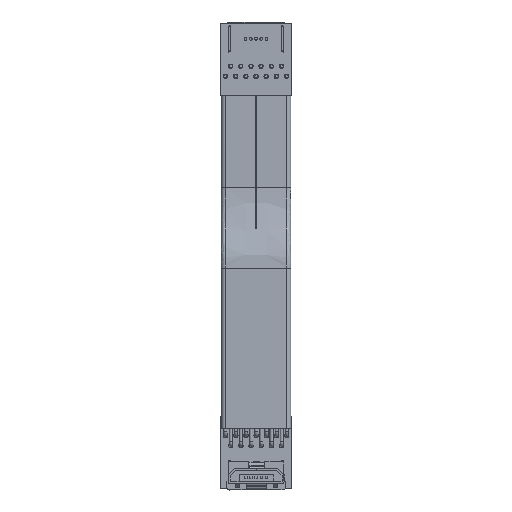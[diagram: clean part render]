
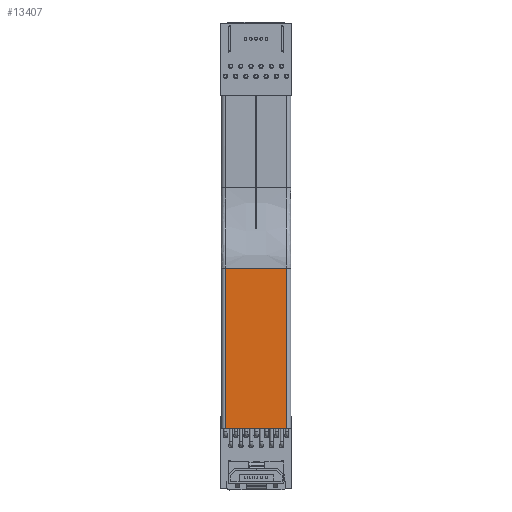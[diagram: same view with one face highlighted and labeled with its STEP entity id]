
A CAD part, top view. The second image highlights one B-rep face of the part: STEP entity #13407.
In plain terms, the highlighted planar face has unit normal (0, 0, 1) as drawn and (0, 0, -1) by its records, which use the part's own axes.
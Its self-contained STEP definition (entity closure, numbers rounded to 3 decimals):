
#11712 = VERTEX_POINT('',#11713);
#11713 = CARTESIAN_POINT('',(0.569,23.023,
    -2.457));
#11725 = EDGE_CURVE('',#11726,#11712,#11728,.T.);
#11726 = VERTEX_POINT('',#11727);
#11727 = CARTESIAN_POINT('',(8.189,23.023,
    -2.457));
#11728 = LINE('',#11729,#11730);
#11729 = CARTESIAN_POINT('',(4.379,23.023,
    -2.457));
#11730 = VECTOR('',#11731,1.);
#11731 = DIRECTION('',(-1.,0.,0.));
#13333 = VERTEX_POINT('',#13334);
#13334 = CARTESIAN_POINT('',(0.569,43.,-2.457));
#13356 = VERTEX_POINT('',#13357);
#13357 = CARTESIAN_POINT('',(8.189,43.,-2.457));
#13367 = EDGE_CURVE('',#13356,#13333,#13368,.T.);
#13368 = LINE('',#13369,#13370);
#13369 = CARTESIAN_POINT('',(4.379,43.,-2.457));
#13370 = VECTOR('',#13371,1.);
#13371 = DIRECTION('',(-1.,0.,0.));
#13389 = EDGE_CURVE('',#11712,#13333,#13390,.T.);
#13390 = LINE('',#13391,#13392);
#13391 = CARTESIAN_POINT('',(0.569,33.011,
    -2.457));
#13392 = VECTOR('',#13393,1.);
#13393 = DIRECTION('',(0.,1.,0.));
#13407 = ADVANCED_FACE('',(#13408),#13419,.T.);
#13408 = FACE_BOUND('',#13409,.T.);
#13409 = EDGE_LOOP('',(#13410,#13411,#13412,#13413));
#13410 = ORIENTED_EDGE('',*,*,#11725,.T.);
#13411 = ORIENTED_EDGE('',*,*,#13389,.T.);
#13412 = ORIENTED_EDGE('',*,*,#13367,.F.);
#13413 = ORIENTED_EDGE('',*,*,#13414,.F.);
#13414 = EDGE_CURVE('',#11726,#13356,#13415,.T.);
#13415 = LINE('',#13416,#13417);
#13416 = CARTESIAN_POINT('',(8.189,33.011,
    -2.457));
#13417 = VECTOR('',#13418,1.);
#13418 = DIRECTION('',(0.,1.,0.));
#13419 = PLANE('',#13420);
#13420 = AXIS2_PLACEMENT_3D('',#13421,#13422,#13423);
#13421 = CARTESIAN_POINT('',(8.189,23.023,
    -2.457));
#13422 = DIRECTION('',(0.,0.,-1.));
#13423 = DIRECTION('',(-1.,0.,0.));
